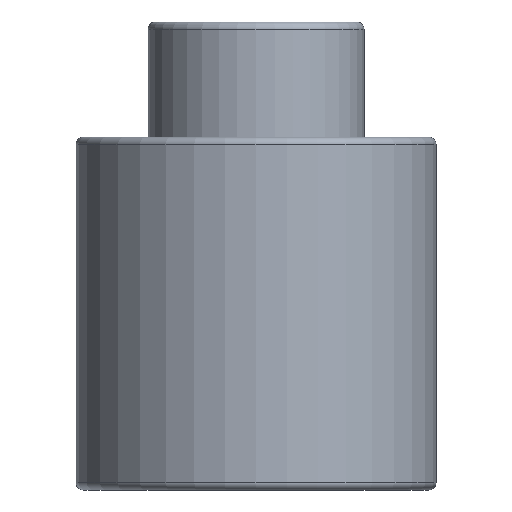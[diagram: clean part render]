
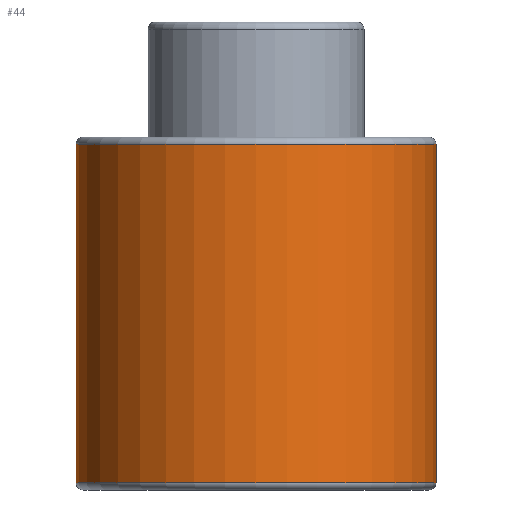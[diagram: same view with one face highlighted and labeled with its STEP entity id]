
A CAD part, front view. The second image highlights one B-rep face of the part: STEP entity #44.
In plain terms, the highlighted cylindrical face has radius 25 mm (diameter 50 mm), a full revolution.
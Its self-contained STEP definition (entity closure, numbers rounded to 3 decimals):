
#44=ADVANCED_FACE('',(#60,#61),#56,.T.);
#56=CYLINDRICAL_SURFACE('',#166,25.);
#60=FACE_BOUND('',#84,.T.);
#61=FACE_BOUND('',#85,.T.);
#84=EDGE_LOOP('',(#106));
#85=EDGE_LOOP('',(#107));
#106=ORIENTED_EDGE('',*,*,#141,.F.);
#107=ORIENTED_EDGE('',*,*,#142,.T.);
#128=VERTEX_POINT('',#237);
#129=VERTEX_POINT('',#239);
#141=EDGE_CURVE('',#128,#128,#152,.T.);
#142=EDGE_CURVE('',#129,#129,#153,.T.);
#152=CIRCLE('',#164,25.);
#153=CIRCLE('',#165,25.);
#164=AXIS2_PLACEMENT_3D('',#236,#189,#190);
#165=AXIS2_PLACEMENT_3D('',#238,#191,#192);
#166=AXIS2_PLACEMENT_3D('',#240,#193,#194);
#189=DIRECTION('',(0.,0.,-1.));
#190=DIRECTION('',(-1.,0.,0.));
#191=DIRECTION('',(0.,0.,-1.));
#192=DIRECTION('',(-1.,0.,0.));
#193=DIRECTION('',(0.,0.,-1.));
#194=DIRECTION('',(-1.,0.,0.));
#236=CARTESIAN_POINT('',(0.,0.,1.));
#237=CARTESIAN_POINT('',(-25.,0.,1.));
#238=CARTESIAN_POINT('',(0.,0.,48.));
#239=CARTESIAN_POINT('',(-25.,0.,48.));
#240=CARTESIAN_POINT('',(0.,0.,0.));
